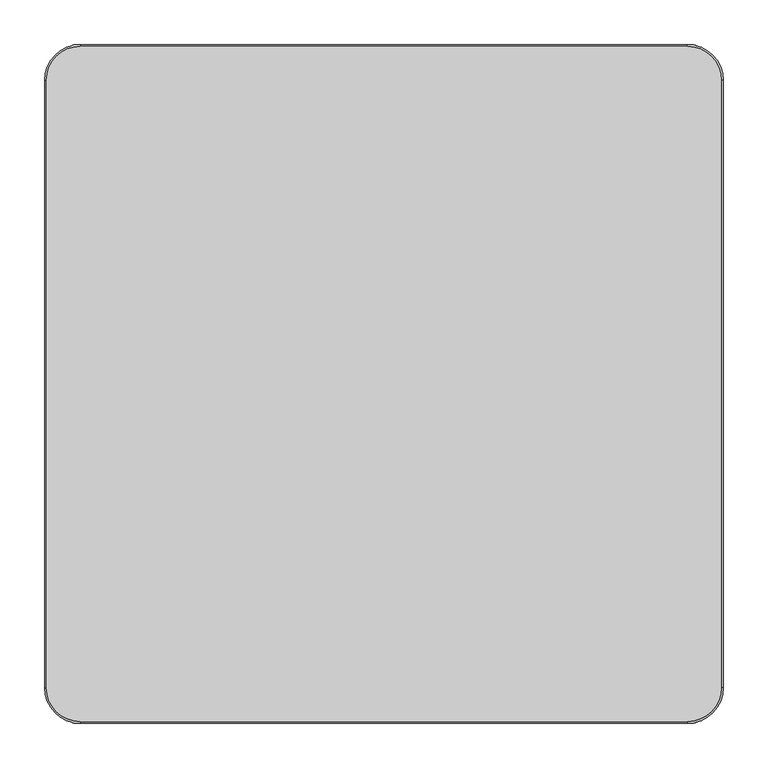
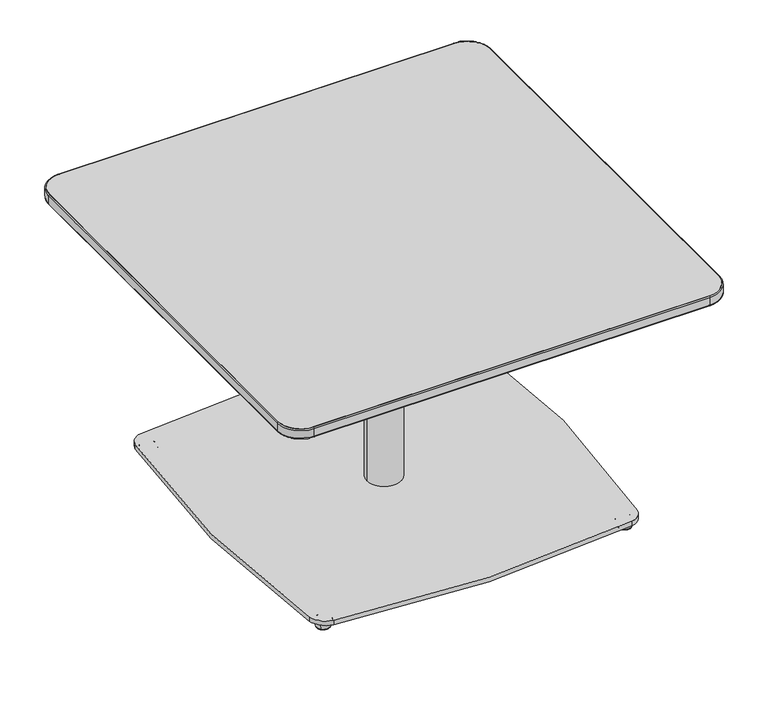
"""IFC4 building model written with IfcOpenShell, lengths in millimetres: furniture geometry, Coalesse_AM_Table_Occasional_Montara650Table_Square : 30D x 30W."""

from ifc_helpers import new_model, si_unit, point, frame, frame_2d, origin, place, context, project, spatial, polyline, circle_curve, ellipse_curve, trimmed, segment, composite_curve, outline, extrude, source, transform, mapped, element, save
from ifc_brep_helpers import plane_surface, cylinder_surface, revolved_surface, spline_surface, advanced_brep


def furniture_5980c282(model_context):
    return source(origin(), model_context, "Body", "SolidModel", [
        advanced_brep(
        [(252.2843813, 244.9990703, 0.0), (266.9696661, 259.6843552, 0.0), (259.6270237, 252.3417127, 0.0), (251.7378791, 244.4525682, 0.5718943), (267.5161683, 260.2308573, 0.5718943), (249.43878, 242.1534691, 11.2068005), (269.8152674, 262.5299564, 11.2068005), (249.8538008, 242.5684899, 11.9999882), (269.4002466, 262.1149356, 11.9999882), (259.6270237, 252.3417127, 11.9999882)],
        [
            (0, 1, circle_curve(frame((259.6270237, 252.3417127, 0.0), z_axis=(0.0, 0.0, -1.0), x_axis=(0.7071067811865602, 0.7071067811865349, 0.0)), 10.3840645)),
            (1, 2),
            (2, 0),
            (1, 0, circle_curve(frame((259.6270237, 252.3417127, 0.0), z_axis=(0.0, 0.0, -1.0), x_axis=(0.7071067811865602, 0.7071067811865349, 0.0)), 10.3840645)),
            (3, 4, circle_curve(frame((259.6270237, 252.3417127, 0.5718943), z_axis=(0.0, 0.0, -1.0), x_axis=(0.7071067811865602, 0.7071067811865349, 0.0)), 11.1569353)),
            (4, 1, circle_curve(frame((266.9696661, 259.6843552, 0.8081846), z_axis=(-0.7071067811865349, 0.7071067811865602, 0.0), x_axis=(0.7071067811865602, 0.7071067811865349, 0.0)), 0.8081846)),
            (0, 3, circle_curve(frame((252.2843813, 244.9990703, 0.8081846), z_axis=(-0.7071067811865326, 0.7071067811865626, 0.0), x_axis=(-0.7071067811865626, -0.7071067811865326, 0.0)), 0.8081846)),
            (4, 3, circle_curve(frame((259.6270237, 252.3417127, 0.5718943), z_axis=(0.0, 0.0, -1.0), x_axis=(0.7071067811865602, 0.7071067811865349, 0.0)), 11.1569353)),
            (5, 6, circle_curve(frame((259.6270237, 252.3417127, 11.2068005), z_axis=(0.0, 0.0, -1.0), x_axis=(0.7071067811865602, 0.7071067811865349, 0.0)), 14.4083524)),
            (6, 4),
            (3, 5),
            (6, 5, circle_curve(frame((259.6270237, 252.3417127, 11.2068005), z_axis=(0.0, 0.0, -1.0), x_axis=(0.7071067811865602, 0.7071067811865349, 0.0)), 14.4083524)),
            (7, 8, circle_curve(frame((259.6270237, 252.3417127, 11.9999882), z_axis=(0.0, 0.0, -1.0), x_axis=(0.7071067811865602, 0.7071067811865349, 0.0)), 13.8214243)),
            (8, 6, circle_curve(frame((269.4002466, 262.1149356, 11.3862424), z_axis=(-0.7071067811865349, 0.7071067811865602, 0.0), x_axis=(0.7071067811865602, 0.7071067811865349, 0.0)), 0.6137458)),
            (5, 7, circle_curve(frame((249.8538008, 242.5684899, 11.3862424), z_axis=(-0.7071067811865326, 0.7071067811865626, 0.0), x_axis=(-0.7071067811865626, -0.7071067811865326, 0.0)), 0.6137458)),
            (8, 7, circle_curve(frame((259.6270237, 252.3417127, 11.9999882), z_axis=(0.0, 0.0, -1.0), x_axis=(0.7071067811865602, 0.7071067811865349, 0.0)), 13.8214243)),
            (9, 8),
            (7, 9),
        ],
        [
            plane_surface(frame((259.6270237, 252.3417127, 0.0), z_axis=(0.0, 0.0, -1.0000000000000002), x_axis=(0.7071067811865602, 0.7071067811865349, 0.0))),
            revolved_surface(trimmed(ellipse_curve(frame((266.9696661, 259.6843552, 0.8081846), z_axis=(0.7071067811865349, -0.7071067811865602, 0.0), x_axis=(0.7071067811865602, 0.7071067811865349, 0.0)), 0.8081846, 0.8081846), [point((266.9696661, 259.6843552, 0.0))], [point((267.5161683, 260.2308573, 0.5718943))], True, "CARTESIAN"), (259.6270237, 252.3417127, 12.2086845), (0.0, 0.0, 1.0)),
            revolved_surface(polyline([(267.5161683, 260.2308573, 0.5718943), (269.8152674, 262.5299564, 11.2068005)]), (259.6270237, 252.3417127, 12.2086845), (0.0, 0.0, 1.0)),
            revolved_surface(trimmed(ellipse_curve(frame((269.4002466, 262.1149356, 11.3862424), z_axis=(0.7071067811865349, -0.7071067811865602, 0.0), x_axis=(0.7071067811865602, 0.7071067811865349, 0.0)), 0.6137458, 0.6137458), [point((269.8152674, 262.5299564, 11.2068005))], [point((269.4002466, 262.1149356, 11.9999882))], True, "CARTESIAN"), (259.6270237, 252.3417127, 12.2086845), (0.0, 0.0, 1.0)),
            plane_surface(frame((259.6270237, 252.3417127, 11.9999882), z_axis=(0.0, 0.0, 1.0000000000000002), x_axis=(0.7071067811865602, 0.7071067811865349, 0.0))),
        ],
        [
            (0, [[1, 2, 3]]),
            (0, [[4, -3, -2]]),
            (1, [[5, 6, -1, 7]]),
            (1, [[8, -7, -4, -6]]),
            (2, [[9, 10, -5, 11]]),
            (2, [[12, -11, -8, -10]]),
            (3, [[13, 14, -9, 15]]),
            (3, [[16, -15, -12, -14]]),
            (4, [[17, -13, 18]]),
            (4, [[-18, -16, -17]]),
        ],
    ),
        advanced_brep(
        [(259.6270237, -268.2167127, 0.0), (266.9696661, -275.5593552, 0.0), (252.2843813, -260.8740703, 0.0), (267.5161683, -276.1058573, 0.5718943), (251.7378791, -260.3275682, 0.5718943), (269.8152674, -278.4049564, 11.2068005), (249.43878, -258.0284691, 11.2068005), (269.4002466, -277.9899356, 11.9999882), (249.8538008, -258.4434899, 11.9999882), (259.6270237, -268.2167127, 11.9999882)],
        [
            (0, 1),
            (1, 2, circle_curve(frame((259.6270237, -268.2167127, 0.0), z_axis=(0.0, 0.0, -1.0), x_axis=(0.7071067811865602, -0.7071067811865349, 0.0)), 10.3840645)),
            (2, 0),
            (2, 1, circle_curve(frame((259.6270237, -268.2167127, 0.0), z_axis=(0.0, 0.0, -1.0), x_axis=(0.7071067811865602, -0.7071067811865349, 0.0)), 10.3840645)),
            (1, 3, circle_curve(frame((266.9696661, -275.5593552, 0.8081846), z_axis=(-0.7071067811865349, -0.7071067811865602, 0.0), x_axis=(0.7071067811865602, -0.7071067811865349, 0.0)), 0.8081846)),
            (3, 4, circle_curve(frame((259.6270237, -268.2167127, 0.5718943), z_axis=(0.0, 0.0, -1.0), x_axis=(0.7071067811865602, -0.7071067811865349, 0.0)), 11.1569353)),
            (4, 2, circle_curve(frame((252.2843813, -260.8740703, 0.8081846), z_axis=(-0.7071067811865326, -0.7071067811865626, 0.0), x_axis=(-0.7071067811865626, 0.7071067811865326, 0.0)), 0.8081846)),
            (4, 3, circle_curve(frame((259.6270237, -268.2167127, 0.5718943), z_axis=(0.0, 0.0, -1.0), x_axis=(0.7071067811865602, -0.7071067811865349, 0.0)), 11.1569353)),
            (3, 5),
            (5, 6, circle_curve(frame((259.6270237, -268.2167127, 11.2068005), z_axis=(0.0, 0.0, -1.0), x_axis=(0.7071067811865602, -0.7071067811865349, 0.0)), 14.4083524)),
            (6, 4),
            (6, 5, circle_curve(frame((259.6270237, -268.2167127, 11.2068005), z_axis=(0.0, 0.0, -1.0), x_axis=(0.7071067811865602, -0.7071067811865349, 0.0)), 14.4083524)),
            (5, 7, circle_curve(frame((269.4002466, -277.9899356, 11.3862424), z_axis=(-0.7071067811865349, -0.7071067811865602, 0.0), x_axis=(0.7071067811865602, -0.7071067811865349, 0.0)), 0.6137458)),
            (7, 8, circle_curve(frame((259.6270237, -268.2167127, 11.9999882), z_axis=(0.0, 0.0, -1.0), x_axis=(0.7071067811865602, -0.7071067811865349, 0.0)), 13.8214243)),
            (8, 6, circle_curve(frame((249.8538008, -258.4434899, 11.3862424), z_axis=(-0.7071067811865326, -0.7071067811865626, 0.0), x_axis=(-0.7071067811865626, 0.7071067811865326, 0.0)), 0.6137458)),
            (8, 7, circle_curve(frame((259.6270237, -268.2167127, 11.9999882), z_axis=(0.0, 0.0, -1.0), x_axis=(0.7071067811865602, -0.7071067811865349, 0.0)), 13.8214243)),
            (7, 9),
            (9, 8),
        ],
        [
            plane_surface(frame((259.6270237, -268.2167127, 0.0), z_axis=(0.0, 0.0, -1.0000000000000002), x_axis=(0.7071067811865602, -0.7071067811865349, 0.0))),
            revolved_surface(trimmed(ellipse_curve(frame((266.9696661, -275.5593552, 0.8081846), z_axis=(0.7071067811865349, 0.7071067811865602, 0.0), x_axis=(0.7071067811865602, -0.7071067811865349, 0.0)), 0.8081846, 0.8081846), [point((267.5161683, -276.1058573, 0.5718943))], [point((266.9696661, -275.5593552, 0.0))], True, "CARTESIAN"), (259.6270237, -268.2167127, 12.2086845), (0.0, 0.0, -1.0)),
            revolved_surface(polyline([(269.8152674, -278.4049564, 11.2068005), (267.5161683, -276.1058573, 0.5718943)]), (259.6270237, -268.2167127, 12.2086845), (0.0, 0.0, -1.0)),
            revolved_surface(trimmed(ellipse_curve(frame((269.4002466, -277.9899356, 11.3862424), z_axis=(0.7071067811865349, 0.7071067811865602, 0.0), x_axis=(0.7071067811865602, -0.7071067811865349, 0.0)), 0.6137458, 0.6137458), [point((269.4002466, -277.9899356, 11.9999882))], [point((269.8152674, -278.4049564, 11.2068005))], True, "CARTESIAN"), (259.6270237, -268.2167127, 12.2086845), (0.0, 0.0, -1.0)),
            plane_surface(frame((259.6270237, -268.2167127, 11.9999882), z_axis=(0.0, 0.0, 1.0000000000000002), x_axis=(0.7071067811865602, -0.7071067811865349, 0.0))),
        ],
        [
            (0, [[1, 2, 3]]),
            (0, [[-3, 4, -1]]),
            (1, [[-2, 5, 6, 7]]),
            (1, [[-4, -7, 8, -5]]),
            (2, [[-6, 9, 10, 11]]),
            (2, [[-8, -11, 12, -9]]),
            (3, [[-10, 13, 14, 15]]),
            (3, [[-12, -15, 16, -13]]),
            (4, [[-14, 17, 18]]),
            (4, [[-16, -18, -17]]),
        ],
    ),
        extrude(outline(composite_curve([segment(trimmed(circle_curve(frame_2d((252.4620101, 244.7741595)), 31.75), [point((257.2212429, 276.1654354))], [point((283.8374336, 249.6368029))], False, "CARTESIAN"), True, "CONTINUOUS"), segment(trimmed(circle_curve(frame_2d((-1338.8141764, -1.8458925)), 1642.0236885), [point((283.8374336, 249.6368029))], [point((281.5966066, -267.3843791))], False, "CARTESIAN"), True, "CONTINUOUS"), segment(trimmed(circle_curve(frame_2d((256.5309305, -263.2768394)), 25.4), [point((281.5966066, -267.3843791))], [point((260.3854879, -288.3826631))], False, "CARTESIAN"), True, "CONTINUOUS"), segment(trimmed(circle_curve(frame_2d((1.8210899, 1395.720493)), 1703.8365498), [point((260.3854879, -288.3826631))], [point((-253.486505, -288.8794656))], False, "CARTESIAN"), True, "CONTINUOUS"), segment(trimmed(circle_curve(frame_2d((-248.7289969, -257.4879282)), 31.75), [point((-253.486505, -288.8794656))], [point((-280.1193859, -262.2530073))], False, "CARTESIAN"), True, "CONTINUOUS"), segment(trimmed(circle_curve(frame_2d((1447.4963883, 5.89e-05)), 1747.4074894), [point((-280.1193859, -262.2530073))], [point((-281.3896101, 253.7442979))], False, "CARTESIAN"), True, "CONTINUOUS"), segment(trimmed(circle_curve(frame_2d((-256.2588351, 250.0559175)), 25.4), [point((-281.3896101, 253.7442979))], [point((-260.1643924, 275.1538581))], False, "CARTESIAN"), True, "CONTINUOUS"), segment(trimmed(circle_curve(frame_2d((1.8210899, -1408.420493)), 1703.8365498), [point((-260.1643924, 275.1538581))], [point((257.2212429, 276.1654354))], False, "CARTESIAN"), True, "CONTINUOUS")], self_intersect=False)), frame((0.0, 0.0, 11.9999882), z_axis=(0.0, 0.0, 1.0), x_axis=(1.0, 0.0, 0.0)), (0.0, 0.0, 1.0), 8.0000083),
        advanced_brep(
        [(-259.6270237, 252.3417127, 0.0), (-266.9696661, 259.6843552, 0.0), (-252.2843813, 244.9990703, 0.0), (-267.5161683, 260.2308573, 0.5718943), (-251.7378791, 244.4525682, 0.5718943), (-269.8152674, 262.5299564, 11.2068005), (-249.43878, 242.1534691, 11.2068005), (-269.4002466, 262.1149356, 11.9999882), (-249.8538008, 242.5684899, 11.9999882), (-259.6270237, 252.3417127, 11.9999882)],
        [
            (0, 1),
            (1, 2, circle_curve(frame((-259.6270237, 252.3417127, 0.0), z_axis=(0.0, 0.0, -1.0), x_axis=(-0.7071067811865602, 0.7071067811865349, 0.0)), 10.3840645)),
            (2, 0),
            (2, 1, circle_curve(frame((-259.6270237, 252.3417127, 0.0), z_axis=(0.0, 0.0, -1.0), x_axis=(-0.7071067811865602, 0.7071067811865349, 0.0)), 10.3840645)),
            (1, 3, circle_curve(frame((-266.9696661, 259.6843552, 0.8081846), z_axis=(0.7071067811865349, 0.7071067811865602, 0.0), x_axis=(-0.7071067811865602, 0.7071067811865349, 0.0)), 0.8081846)),
            (3, 4, circle_curve(frame((-259.6270237, 252.3417127, 0.5718943), z_axis=(0.0, 0.0, -1.0), x_axis=(-0.7071067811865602, 0.7071067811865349, 0.0)), 11.1569353)),
            (4, 2, circle_curve(frame((-252.2843813, 244.9990703, 0.8081846), z_axis=(0.7071067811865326, 0.7071067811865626, 0.0), x_axis=(0.7071067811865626, -0.7071067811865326, 0.0)), 0.8081846)),
            (4, 3, circle_curve(frame((-259.6270237, 252.3417127, 0.5718943), z_axis=(0.0, 0.0, -1.0), x_axis=(-0.7071067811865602, 0.7071067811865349, 0.0)), 11.1569353)),
            (3, 5),
            (5, 6, circle_curve(frame((-259.6270237, 252.3417127, 11.2068005), z_axis=(0.0, 0.0, -1.0), x_axis=(-0.7071067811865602, 0.7071067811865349, 0.0)), 14.4083524)),
            (6, 4),
            (6, 5, circle_curve(frame((-259.6270237, 252.3417127, 11.2068005), z_axis=(0.0, 0.0, -1.0), x_axis=(-0.7071067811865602, 0.7071067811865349, 0.0)), 14.4083524)),
            (5, 7, circle_curve(frame((-269.4002466, 262.1149356, 11.3862424), z_axis=(0.7071067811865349, 0.7071067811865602, 0.0), x_axis=(-0.7071067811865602, 0.7071067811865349, 0.0)), 0.6137458)),
            (7, 8, circle_curve(frame((-259.6270237, 252.3417127, 11.9999882), z_axis=(0.0, 0.0, -1.0), x_axis=(-0.7071067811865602, 0.7071067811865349, 0.0)), 13.8214243)),
            (8, 6, circle_curve(frame((-249.8538008, 242.5684899, 11.3862424), z_axis=(0.7071067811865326, 0.7071067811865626, 0.0), x_axis=(0.7071067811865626, -0.7071067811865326, 0.0)), 0.6137458)),
            (8, 7, circle_curve(frame((-259.6270237, 252.3417127, 11.9999882), z_axis=(0.0, 0.0, -1.0), x_axis=(-0.7071067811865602, 0.7071067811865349, 0.0)), 13.8214243)),
            (7, 9),
            (9, 8),
        ],
        [
            plane_surface(frame((-259.6270237, 252.3417127, 0.0), z_axis=(0.0, 0.0, -1.0000000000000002), x_axis=(-0.7071067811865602, 0.7071067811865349, 0.0))),
            revolved_surface(trimmed(ellipse_curve(frame((-266.9696661, 259.6843552, 0.8081846), z_axis=(-0.7071067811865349, -0.7071067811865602, 0.0), x_axis=(-0.7071067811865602, 0.7071067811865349, 0.0)), 0.8081846, 0.8081846), [point((-267.5161683, 260.2308573, 0.5718943))], [point((-266.9696661, 259.6843552, 0.0))], True, "CARTESIAN"), (-259.6270237, 252.3417127, 12.2086845), (0.0, 0.0, -1.0)),
            revolved_surface(polyline([(-269.8152674, 262.5299564, 11.2068005), (-267.5161683, 260.2308573, 0.5718943)]), (-259.6270237, 252.3417127, 12.2086845), (0.0, 0.0, -1.0)),
            revolved_surface(trimmed(ellipse_curve(frame((-269.4002466, 262.1149356, 11.3862424), z_axis=(-0.7071067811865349, -0.7071067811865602, 0.0), x_axis=(-0.7071067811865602, 0.7071067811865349, 0.0)), 0.6137458, 0.6137458), [point((-269.4002466, 262.1149356, 11.9999882))], [point((-269.8152674, 262.5299564, 11.2068005))], True, "CARTESIAN"), (-259.6270237, 252.3417127, 12.2086845), (0.0, 0.0, -1.0)),
            plane_surface(frame((-259.6270237, 252.3417127, 11.9999882), z_axis=(0.0, 0.0, 1.0000000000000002), x_axis=(-0.7071067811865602, 0.7071067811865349, 0.0))),
        ],
        [
            (0, [[1, 2, 3]]),
            (0, [[-3, 4, -1]]),
            (1, [[-2, 5, 6, 7]]),
            (1, [[-4, -7, 8, -5]]),
            (2, [[-6, 9, 10, 11]]),
            (2, [[-8, -11, 12, -9]]),
            (3, [[-10, 13, 14, 15]]),
            (3, [[-12, -15, 16, -13]]),
            (4, [[-14, 17, 18]]),
            (4, [[-16, -18, -17]]),
        ],
    ),
        advanced_brep(
        [(-252.2843813, -260.8740703, 0.0), (-266.9696661, -275.5593552, 0.0), (-259.6270237, -268.2167127, 0.0), (-251.7378791, -260.3275682, 0.5718943), (-267.5161683, -276.1058573, 0.5718943), (-249.43878, -258.0284691, 11.2068005), (-269.8152674, -278.4049564, 11.2068005), (-249.8538008, -258.4434899, 11.9999882), (-269.4002466, -277.9899356, 11.9999882), (-259.6270237, -268.2167127, 11.9999882)],
        [
            (0, 1, circle_curve(frame((-259.6270237, -268.2167127, 0.0), z_axis=(0.0, 0.0, -1.0), x_axis=(-0.7071067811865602, -0.7071067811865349, 0.0)), 10.3840645)),
            (1, 2),
            (2, 0),
            (1, 0, circle_curve(frame((-259.6270237, -268.2167127, 0.0), z_axis=(0.0, 0.0, -1.0), x_axis=(-0.7071067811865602, -0.7071067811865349, 0.0)), 10.3840645)),
            (3, 4, circle_curve(frame((-259.6270237, -268.2167127, 0.5718943), z_axis=(0.0, 0.0, -1.0), x_axis=(-0.7071067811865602, -0.7071067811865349, 0.0)), 11.1569353)),
            (4, 1, circle_curve(frame((-266.9696661, -275.5593552, 0.8081846), z_axis=(0.7071067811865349, -0.7071067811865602, 0.0), x_axis=(-0.7071067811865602, -0.7071067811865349, 0.0)), 0.8081846)),
            (0, 3, circle_curve(frame((-252.2843813, -260.8740703, 0.8081846), z_axis=(0.7071067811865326, -0.7071067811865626, 0.0), x_axis=(0.7071067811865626, 0.7071067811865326, 0.0)), 0.8081846)),
            (4, 3, circle_curve(frame((-259.6270237, -268.2167127, 0.5718943), z_axis=(0.0, 0.0, -1.0), x_axis=(-0.7071067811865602, -0.7071067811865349, 0.0)), 11.1569353)),
            (5, 6, circle_curve(frame((-259.6270237, -268.2167127, 11.2068005), z_axis=(0.0, 0.0, -1.0), x_axis=(-0.7071067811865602, -0.7071067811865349, 0.0)), 14.4083524)),
            (6, 4),
            (3, 5),
            (6, 5, circle_curve(frame((-259.6270237, -268.2167127, 11.2068005), z_axis=(0.0, 0.0, -1.0), x_axis=(-0.7071067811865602, -0.7071067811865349, 0.0)), 14.4083524)),
            (7, 8, circle_curve(frame((-259.6270237, -268.2167127, 11.9999882), z_axis=(0.0, 0.0, -1.0), x_axis=(-0.7071067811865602, -0.7071067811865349, 0.0)), 13.8214243)),
            (8, 6, circle_curve(frame((-269.4002466, -277.9899356, 11.3862424), z_axis=(0.7071067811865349, -0.7071067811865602, 0.0), x_axis=(-0.7071067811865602, -0.7071067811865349, 0.0)), 0.6137458)),
            (5, 7, circle_curve(frame((-249.8538008, -258.4434899, 11.3862424), z_axis=(0.7071067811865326, -0.7071067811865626, 0.0), x_axis=(0.7071067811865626, 0.7071067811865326, 0.0)), 0.6137458)),
            (8, 7, circle_curve(frame((-259.6270237, -268.2167127, 11.9999882), z_axis=(0.0, 0.0, -1.0), x_axis=(-0.7071067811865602, -0.7071067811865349, 0.0)), 13.8214243)),
            (9, 8),
            (7, 9),
        ],
        [
            plane_surface(frame((-259.6270237, -268.2167127, 0.0), z_axis=(0.0, 0.0, -1.0000000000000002), x_axis=(-0.7071067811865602, -0.7071067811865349, 0.0))),
            revolved_surface(trimmed(ellipse_curve(frame((-266.9696661, -275.5593552, 0.8081846), z_axis=(-0.7071067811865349, 0.7071067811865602, 0.0), x_axis=(-0.7071067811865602, -0.7071067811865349, 0.0)), 0.8081846, 0.8081846), [point((-266.9696661, -275.5593552, 0.0))], [point((-267.5161683, -276.1058573, 0.5718943))], True, "CARTESIAN"), (-259.6270237, -268.2167127, 12.2086845), (0.0, 0.0, 1.0)),
            revolved_surface(polyline([(-267.5161683, -276.1058573, 0.5718943), (-269.8152674, -278.4049564, 11.2068005)]), (-259.6270237, -268.2167127, 12.2086845), (0.0, 0.0, 1.0)),
            revolved_surface(trimmed(ellipse_curve(frame((-269.4002466, -277.9899356, 11.3862424), z_axis=(-0.7071067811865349, 0.7071067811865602, 0.0), x_axis=(-0.7071067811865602, -0.7071067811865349, 0.0)), 0.6137458, 0.6137458), [point((-269.8152674, -278.4049564, 11.2068005))], [point((-269.4002466, -277.9899356, 11.9999882))], True, "CARTESIAN"), (-259.6270237, -268.2167127, 12.2086845), (0.0, 0.0, 1.0)),
            plane_surface(frame((-259.6270237, -268.2167127, 11.9999882), z_axis=(0.0, 0.0, 1.0000000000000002), x_axis=(-0.7071067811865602, -0.7071067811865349, 0.0))),
        ],
        [
            (0, [[1, 2, 3]]),
            (0, [[4, -3, -2]]),
            (1, [[5, 6, -1, 7]]),
            (1, [[8, -7, -4, -6]]),
            (2, [[9, 10, -5, 11]]),
            (2, [[12, -11, -8, -10]]),
            (3, [[13, 14, -9, 15]]),
            (3, [[16, -15, -12, -14]]),
            (4, [[17, -13, 18]]),
            (4, [[-18, -16, -17]]),
        ],
    ),
        advanced_brep(
        [(-259.4526224, 252.1653521, 0.0), (-266.7952648, 259.5079945, 0.0), (-252.1099799, 244.8227097, 0.0), (-267.3417669, 260.0544967, 0.5718943), (-251.5634778, 244.2762075, 0.5718943), (-269.640866, 262.3535958, 11.2068005), (-249.2643787, 241.9771084, 11.2068005), (-269.2258452, 261.938575, 11.9999882), (-249.6793995, 242.3921292, 11.9999882), (-259.4526224, 252.1653521, 11.9999882)],
        [
            (0, 1),
            (1, 2, circle_curve(frame((-259.4526224, 252.1653521, 0.0), z_axis=(0.0, 0.0, -1.0), x_axis=(-0.7071067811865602, 0.7071067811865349, 0.0)), 10.3840645)),
            (2, 0),
            (2, 1, circle_curve(frame((-259.4526224, 252.1653521, 0.0), z_axis=(0.0, 0.0, -1.0), x_axis=(-0.7071067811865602, 0.7071067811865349, 0.0)), 10.3840645)),
            (1, 3, circle_curve(frame((-266.7952648, 259.5079945, 0.8081846), z_axis=(0.7071067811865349, 0.7071067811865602, 0.0), x_axis=(-0.7071067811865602, 0.7071067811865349, 0.0)), 0.8081846)),
            (3, 4, circle_curve(frame((-259.4526224, 252.1653521, 0.5718943), z_axis=(0.0, 0.0, -1.0), x_axis=(-0.7071067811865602, 0.7071067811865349, 0.0)), 11.1569353)),
            (4, 2, circle_curve(frame((-252.1099799, 244.8227097, 0.8081846), z_axis=(0.7071067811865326, 0.7071067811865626, 0.0), x_axis=(0.7071067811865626, -0.7071067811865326, 0.0)), 0.8081846)),
            (4, 3, circle_curve(frame((-259.4526224, 252.1653521, 0.5718943), z_axis=(0.0, 0.0, -1.0), x_axis=(-0.7071067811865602, 0.7071067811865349, 0.0)), 11.1569353)),
            (3, 5),
            (5, 6, circle_curve(frame((-259.4526224, 252.1653521, 11.2068005), z_axis=(0.0, 0.0, -1.0), x_axis=(-0.7071067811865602, 0.7071067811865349, 0.0)), 14.4083524)),
            (6, 4),
            (6, 5, circle_curve(frame((-259.4526224, 252.1653521, 11.2068005), z_axis=(0.0, 0.0, -1.0), x_axis=(-0.7071067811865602, 0.7071067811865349, 0.0)), 14.4083524)),
            (5, 7, circle_curve(frame((-269.2258452, 261.938575, 11.3862424), z_axis=(0.7071067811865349, 0.7071067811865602, 0.0), x_axis=(-0.7071067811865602, 0.7071067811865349, 0.0)), 0.6137458)),
            (7, 8, circle_curve(frame((-259.4526224, 252.1653521, 11.9999882), z_axis=(0.0, 0.0, -1.0), x_axis=(-0.7071067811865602, 0.7071067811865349, 0.0)), 13.8214243)),
            (8, 6, circle_curve(frame((-249.6793995, 242.3921292, 11.3862424), z_axis=(0.7071067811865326, 0.7071067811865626, 0.0), x_axis=(0.7071067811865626, -0.7071067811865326, 0.0)), 0.6137458)),
            (8, 7, circle_curve(frame((-259.4526224, 252.1653521, 11.9999882), z_axis=(0.0, 0.0, -1.0), x_axis=(-0.7071067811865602, 0.7071067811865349, 0.0)), 13.8214243)),
            (7, 9),
            (9, 8),
        ],
        [
            plane_surface(frame((-259.4526224, 252.1653521, 0.0), z_axis=(0.0, 0.0, -1.0000000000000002), x_axis=(-0.7071067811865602, 0.7071067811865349, 0.0))),
            revolved_surface(trimmed(ellipse_curve(frame((-266.7952648, 259.5079945, 0.8081846), z_axis=(-0.7071067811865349, -0.7071067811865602, 0.0), x_axis=(-0.7071067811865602, 0.7071067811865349, 0.0)), 0.8081846, 0.8081846), [point((-267.3417669, 260.0544967, 0.5718943))], [point((-266.7952648, 259.5079945, 0.0))], True, "CARTESIAN"), (-259.4526224, 252.1653521, 12.2086845), (0.0, 0.0, -1.0)),
            revolved_surface(polyline([(-269.640866, 262.3535958, 11.2068005), (-267.3417669, 260.0544967, 0.5718943)]), (-259.4526224, 252.1653521, 12.2086845), (0.0, 0.0, -1.0)),
            revolved_surface(trimmed(ellipse_curve(frame((-269.2258452, 261.938575, 11.3862424), z_axis=(-0.7071067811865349, -0.7071067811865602, 0.0), x_axis=(-0.7071067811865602, 0.7071067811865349, 0.0)), 0.6137458, 0.6137458), [point((-269.2258452, 261.938575, 11.9999882))], [point((-269.640866, 262.3535958, 11.2068005))], True, "CARTESIAN"), (-259.4526224, 252.1653521, 12.2086845), (0.0, 0.0, -1.0)),
            plane_surface(frame((-259.4526224, 252.1653521, 11.9999882), z_axis=(0.0, 0.0, 1.0000000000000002), x_axis=(-0.7071067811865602, 0.7071067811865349, 0.0))),
        ],
        [
            (0, [[1, 2, 3]]),
            (0, [[-3, 4, -1]]),
            (1, [[-2, 5, 6, 7]]),
            (1, [[-4, -7, 8, -5]]),
            (2, [[-6, 9, 10, 11]]),
            (2, [[-8, -11, 12, -9]]),
            (3, [[-10, 13, 14, 15]]),
            (3, [[-12, -15, 16, -13]]),
            (4, [[-14, 17, 18]]),
            (4, [[-16, -18, -17]]),
        ],
    ),
        advanced_brep(
        [(316.0626362, 316.0635082, 427.230027), (316.0626362, -316.0635082, 427.230027), (-316.0626362, -316.0635082, 427.230027), (-316.0626362, 316.0635082, 427.230027), (340.788625, 378.968, 439.495891), (-340.788625, 378.968, 439.495891), (-378.888625, 340.868, 439.495891), (-378.888625, -340.868, 439.495891), (-340.788625, -378.968, 439.495891), (340.788625, -378.968, 439.495891), (378.888625, -340.868, 439.495891), (378.888625, 340.868, 439.495891)],
        [
            (0, 1),
            (1, 2),
            (2, 3),
            (3, 0),
            (4, 5),
            (5, 6, circle_curve(frame((-340.788625, 340.868, 439.495891), z_axis=(0.0, 0.0, 1.0), x_axis=(1.0, 0.0, 0.0)), 38.1)),
            (6, 7),
            (7, 8, circle_curve(frame((-340.788625, -340.868, 439.495891), z_axis=(0.0, 0.0, 1.0), x_axis=(1.0, 0.0, 0.0)), 38.1)),
            (8, 9),
            (9, 10, circle_curve(frame((340.788625, -340.868, 439.495891), z_axis=(0.0, 0.0, 1.0), x_axis=(1.0, 0.0, 0.0)), 38.1)),
            (10, 11),
            (11, 4, circle_curve(frame((340.788625, 340.868, 439.495891), z_axis=(0.0, 0.0, 1.0), x_axis=(1.0, 0.0, 0.0)), 38.1)),
            (11, 0),
            (0, 4),
            (10, 1),
            (9, 1),
            (8, 2),
            (7, 2),
            (6, 3),
            (5, 3),
        ],
        [
            plane_surface(frame((0.0, 0.0, 427.230027), z_axis=(0.0, 0.0, -1.0), x_axis=(-1.0, 0.0, 0.0))),
            plane_surface(frame((0.0, 0.0, 439.495891), z_axis=(0.0, 0.0, 1.0), x_axis=(-1.0, 0.0, 0.0))),
            spline_surface(2, 1, [[(340.788625, 378.968, 439.495891), (316.0626362, 316.0635082, 427.230027)], [(378.88862500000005, 378.9680000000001, 439.495891), (316.0626362, 316.0635082, 427.230027)], [(378.888625, 340.868, 439.495891), (316.0626362, 316.0635082, 427.230027)]], [3, 3], [2, 2], [0.0, 1.0], [0.0, 1.0], weights=[[1.0, 1.0], [0.707106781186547, 0.707106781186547], [1.0, 1.0]]),
            plane_surface(frame((378.888625, 0.0, 439.495891), z_axis=(0.19161772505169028, 0.0, -0.9814696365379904), x_axis=(0.0, -1.0, 0.0))),
            spline_surface(2, 1, [[(378.888625, -340.868, 439.495891), (316.0626362, -316.0635082, 427.230027)], [(378.88862499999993, -378.96799999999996, 439.495891), (316.0626362, -316.0635082, 427.230027)], [(340.788625, -378.968, 439.495891), (316.0626362, -316.0635082, 427.230027)]], [3, 3], [2, 2], [0.0, 1.0], [0.0, 1.0], weights=[[1.0, 1.0], [0.7071067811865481, 0.7071067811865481], [1.0, 1.0]]),
            plane_surface(frame((0.0, -378.968, 439.495891), z_axis=(0.0, -0.1913873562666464, -0.9815145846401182), x_axis=(-1.0, 0.0, 0.0))),
            spline_surface(2, 1, [[(-340.788625, -378.968, 439.495891), (-316.0626362, -316.0635082, 427.230027)], [(-378.88862500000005, -378.9680000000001, 439.495891), (-316.0626362, -316.0635082, 427.230027)], [(-378.888625, -340.868, 439.495891), (-316.0626362, -316.0635082, 427.230027)]], [3, 3], [2, 2], [0.0, 1.0], [0.0, 1.0], weights=[[1.0, 1.0], [0.707106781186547, 0.707106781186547], [1.0, 1.0]]),
            plane_surface(frame((-378.888625, 0.0, 439.495891), z_axis=(-0.19161772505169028, 0.0, -0.9814696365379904), x_axis=(0.0, 1.0, 0.0))),
            spline_surface(2, 1, [[(-378.888625, 340.868, 439.495891), (-316.0626362, 316.0635082, 427.230027)], [(-378.88862499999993, 378.96799999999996, 439.495891), (-316.0626362, 316.0635082, 427.230027)], [(-340.788625, 378.968, 439.495891), (-316.0626362, 316.0635082, 427.230027)]], [3, 3], [2, 2], [0.0, 1.0], [0.0, 1.0], weights=[[1.0, 1.0], [0.7071067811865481, 0.7071067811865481], [1.0, 1.0]]),
            plane_surface(frame((0.0, 378.968, 439.495891), z_axis=(0.0, 0.1913873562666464, -0.9815145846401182), x_axis=(1.0, 0.0, 0.0))),
        ],
        [
            (0, [[1, 2, 3, 4]]),
            (1, [[5, 6, 7, 8, 9, 10, 11, 12]]),
            (2, [[-12, 13, 14]]),
            (3, [[-11, 15, -1, -13]]),
            (4, [[-10, 16, -15]]),
            (5, [[-9, 17, -2, -16]]),
            (6, [[-8, 18, -17]]),
            (7, [[-7, 19, -3, -18]]),
            (8, [[-6, 20, -19]]),
            (9, [[-5, -14, -4, -20]]),
        ],
    ),
        extrude(outline(composite_curve([segment(trimmed(circle_curve(frame_2d((340.788625, 340.868)), 38.1), [point((340.788625, 378.968))], [point((378.888625, 340.868))], False, "CARTESIAN"), True, "CONTINUOUS"), segment(polyline([(378.888625, 340.868), (378.888625, -340.868)]), True, "CONTINUOUS"), segment(trimmed(circle_curve(frame_2d((340.788625, -340.868)), 38.1), [point((378.888625, -340.868))], [point((340.788625, -378.968))], False, "CARTESIAN"), True, "CONTINUOUS"), segment(polyline([(340.788625, -378.968), (-340.788625, -378.968)]), True, "CONTINUOUS"), segment(trimmed(circle_curve(frame_2d((-340.788625, -340.868)), 38.1), [point((-340.788625, -378.968))], [point((-378.888625, -340.868))], False, "CARTESIAN"), True, "CONTINUOUS"), segment(polyline([(-378.888625, -340.868), (-378.888625, 340.868)]), True, "CONTINUOUS"), segment(trimmed(circle_curve(frame_2d((-340.788625, 340.868)), 38.1), [point((-378.888625, 340.868))], [point((-340.788625, 378.968))], False, "CARTESIAN"), True, "CONTINUOUS"), segment(polyline([(-340.788625, 378.968), (340.788625, 378.968)]), True, "CONTINUOUS")], self_intersect=False)), frame((0.0, 0.0, 439.495891), z_axis=(0.0, 0.0, 1.0), x_axis=(1.0, 0.0, 0.0)), (0.0, 0.0, 1.0), 17.704109),
        advanced_brep(
        [(-380.9644915, 340.868, 441.4278467), (-340.788625, 381.0438665, 441.4278467), (-340.788625, 378.968, 439.495891), (-378.888625, 340.868, 439.495891), (-380.9644915, 340.868, 455.1999283), (-340.788625, 381.0438665, 455.1999283), (-378.888625, 340.868, 457.2), (-340.788625, 378.968, 457.2), (-378.888625, -340.868, 439.495891), (-380.9644915, -340.868, 441.4278467), (-380.9644915, -340.868, 455.1999283), (-378.888625, -340.868, 457.2), (-340.788625, -381.0438665, 441.4278467), (-340.788625, -378.968, 439.495891), (-340.788625, -381.0438665, 455.1999283), (-340.788625, -378.968, 457.2), (340.788625, -378.968, 439.495891), (340.788625, -381.0438665, 441.4278467), (340.788625, -381.0438665, 455.1999283), (340.788625, -378.968, 457.2), (380.9644915, -340.868, 441.4278467), (378.888625, -340.868, 439.495891), (380.9644915, -340.868, 455.1999283), (378.888625, -340.868, 457.2), (378.888625, 340.868, 439.495891), (380.9644915, 340.868, 441.4278467), (380.9644915, 340.868, 455.1999283), (378.888625, 340.868, 457.2), (340.788625, 381.0438665, 441.4278467), (340.788625, 378.968, 439.495891), (340.788625, 381.0438665, 455.1999283), (340.788625, 378.968, 457.2)],
        [
            (0, 1, circle_curve(frame((-340.788625, 340.868, 441.4278467), z_axis=(0.0, 0.0, -1.0), x_axis=(0.0, 1.0, 0.0)), 40.1758665)),
            (1, 2, circle_curve(frame((-340.788625, 379.1069224, 441.4278467), z_axis=(-1.0, 0.0, 0.0), x_axis=(0.0, -1.0, 0.0)), 1.9369441)),
            (2, 3, circle_curve(frame((-340.788625, 340.868, 439.495891), z_axis=(0.0, 0.0, 1.0), x_axis=(0.0, 1.0, 0.0)), 38.1)),
            (3, 0, circle_curve(frame((-379.0275474, 340.868, 441.4278467), z_axis=(0.0, 1.0, 0.0), x_axis=(1.0, 0.0, 0.0)), 1.9369441)),
            (4, 5, circle_curve(frame((-340.788625, 340.868, 455.1999283), z_axis=(0.0, 0.0, -1.0), x_axis=(0.0, 1.0, 0.0)), 40.1758665)),
            (5, 1),
            (0, 4),
            (6, 7, circle_curve(frame((-340.788625, 340.868, 457.2), z_axis=(0.0, 0.0, -1.0), x_axis=(0.0, 1.0, 0.0)), 38.1)),
            (7, 5, circle_curve(frame((-340.788625, 379.0424111, 455.1999283), z_axis=(-1.0, 0.0, 0.0), x_axis=(0.0, -1.0, 0.0)), 2.0014554)),
            (4, 6, circle_curve(frame((-378.9630361, 340.868, 455.1999283), z_axis=(0.0, 1.0, 0.0), x_axis=(1.0, 0.0, 0.0)), 2.0014554)),
            (2, 7),
            (6, 3),
            (3, 8),
            (8, 9, circle_curve(frame((-379.0275474, -340.868, 441.4278467), z_axis=(0.0, 1.0, 0.0), x_axis=(1.0, 0.0, 0.0)), 1.9369441)),
            (9, 0),
            (9, 10),
            (10, 4),
            (10, 11, circle_curve(frame((-378.9630361, -340.868, 455.1999283), z_axis=(0.0, 1.0, 0.0), x_axis=(1.0, 0.0, 0.0)), 2.0014554)),
            (11, 6),
            (11, 8),
            (12, 9, circle_curve(frame((-340.788625, -340.868, 441.4278467), z_axis=(0.0, 0.0, -1.0), x_axis=(-1.0, 0.0, 0.0)), 40.1758665)),
            (8, 13, circle_curve(frame((-340.788625, -340.868, 439.495891), z_axis=(0.0, 0.0, 1.0), x_axis=(-1.0, 0.0, 0.0)), 38.1)),
            (13, 12, circle_curve(frame((-340.788625, -379.1069224, 441.4278467), z_axis=(-1.0, 0.0, 0.0), x_axis=(0.0, 1.0, 0.0)), 1.9369441)),
            (14, 10, circle_curve(frame((-340.788625, -340.868, 455.1999283), z_axis=(0.0, 0.0, -1.0), x_axis=(-1.0, 0.0, 0.0)), 40.1758665)),
            (12, 14),
            (15, 11, circle_curve(frame((-340.788625, -340.868, 457.2), z_axis=(0.0, 0.0, -1.0), x_axis=(-1.0, 0.0, 0.0)), 38.1)),
            (14, 15, circle_curve(frame((-340.788625, -379.0424111, 455.1999283), z_axis=(-1.0, 0.0, 0.0), x_axis=(0.0, 1.0, 0.0)), 2.0014554)),
            (15, 13),
            (13, 16),
            (16, 17, circle_curve(frame((340.788625, -379.1069224, 441.4278467), z_axis=(-1.0, 0.0, 0.0), x_axis=(0.0, 1.0, 0.0)), 1.9369441)),
            (17, 12),
            (17, 18),
            (18, 14),
            (18, 19, circle_curve(frame((340.788625, -379.0424111, 455.1999283), z_axis=(-1.0, 0.0, 0.0), x_axis=(0.0, 1.0, 0.0)), 2.0014554)),
            (19, 15),
            (19, 16),
            (20, 17, circle_curve(frame((340.788625, -340.868, 441.4278467), z_axis=(0.0, 0.0, -1.0), x_axis=(0.0, -1.0, 0.0)), 40.1758665)),
            (16, 21, circle_curve(frame((340.788625, -340.868, 439.495891), z_axis=(0.0, 0.0, 1.0), x_axis=(0.0, -1.0, 0.0)), 38.1)),
            (21, 20, circle_curve(frame((379.0275474, -340.868, 441.4278467), z_axis=(0.0, -1.0, 0.0), x_axis=(-1.0, 0.0, 0.0)), 1.9369441)),
            (22, 18, circle_curve(frame((340.788625, -340.868, 455.1999283), z_axis=(0.0, 0.0, -1.0), x_axis=(0.0, -1.0, 0.0)), 40.1758665)),
            (20, 22),
            (23, 19, circle_curve(frame((340.788625, -340.868, 457.2), z_axis=(0.0, 0.0, -1.0), x_axis=(0.0, -1.0, 0.0)), 38.1)),
            (22, 23, circle_curve(frame((378.9630361, -340.868, 455.1999283), z_axis=(0.0, -1.0, 0.0), x_axis=(-1.0, 0.0, 0.0)), 2.0014554)),
            (23, 21),
            (21, 24),
            (24, 25, circle_curve(frame((379.0275474, 340.868, 441.4278467), z_axis=(0.0, -1.0, 0.0), x_axis=(-1.0, 0.0, 0.0)), 1.9369441)),
            (25, 20),
            (25, 26),
            (26, 22),
            (26, 27, circle_curve(frame((378.9630361, 340.868, 455.1999283), z_axis=(0.0, -1.0, 0.0), x_axis=(-1.0, 0.0, 0.0)), 2.0014554)),
            (27, 23),
            (27, 24),
            (28, 25, circle_curve(frame((340.788625, 340.868, 441.4278467), z_axis=(0.0, 0.0, -1.0), x_axis=(1.0, 0.0, 0.0)), 40.1758665)),
            (24, 29, circle_curve(frame((340.788625, 340.868, 439.495891), z_axis=(0.0, 0.0, 1.0), x_axis=(1.0, 0.0, 0.0)), 38.1)),
            (29, 28, circle_curve(frame((340.788625, 379.1069224, 441.4278467), z_axis=(1.0, 0.0, 0.0), x_axis=(0.0, -1.0, 0.0)), 1.9369441)),
            (30, 26, circle_curve(frame((340.788625, 340.868, 455.1999283), z_axis=(0.0, 0.0, -1.0), x_axis=(1.0, 0.0, 0.0)), 40.1758665)),
            (28, 30),
            (31, 27, circle_curve(frame((340.788625, 340.868, 457.2), z_axis=(0.0, 0.0, -1.0), x_axis=(1.0, 0.0, 0.0)), 38.1)),
            (30, 31, circle_curve(frame((340.788625, 379.0424111, 455.1999283), z_axis=(1.0, 0.0, 0.0), x_axis=(0.0, -1.0, 0.0)), 2.0014554)),
            (31, 29),
            (29, 2),
            (1, 28),
            (5, 30),
            (7, 31),
        ],
        [
            revolved_surface(trimmed(ellipse_curve(frame((-340.788625, 379.1069224, 441.4278467), z_axis=(1.0, 0.0, 0.0), x_axis=(0.0, -1.0, 0.0)), 1.9369441, 1.9369441), [point((-340.788625, 378.968, 439.495891))], [point((-340.788625, 381.0438665, 441.4278467))], True, "CARTESIAN"), (-340.788625, 340.868, 0.0), (0.0, 0.0, 1.0)),
            cylinder_surface(frame((-340.788625, 340.868, 0.0), z_axis=(0.0, 0.0, 1.0), x_axis=(0.0, 1.0, 0.0)), 40.1758665),
            revolved_surface(trimmed(ellipse_curve(frame((-340.788625, 379.0424111, 455.1999283), z_axis=(1.0, 0.0, 0.0), x_axis=(0.0, -1.0, 0.0)), 2.0014554, 2.0014554), [point((-340.788625, 381.0438665, 455.1999283))], [point((-340.788625, 378.968, 457.2))], True, "CARTESIAN"), (-340.788625, 340.868, 0.0), (0.0, 0.0, 1.0)),
            revolved_surface(polyline([(-340.788625, 378.968, 457.2), (-340.788625, 378.968, 439.495891)]), (-340.788625, 340.868, 0.0), (0.0, 0.0, 1.0)),
            cylinder_surface(frame((-379.0275474, 340.868, 441.4278467), z_axis=(0.0, 1.0, 0.0), x_axis=(1.0, 0.0, 0.0)), 1.9369441),
            plane_surface(frame((-380.9644915, 340.868, 441.4278467), z_axis=(-1.0, 0.0, 0.0), x_axis=(0.0, -1.0, 0.0))),
            cylinder_surface(frame((-378.9630361, 340.868, 455.1999283), z_axis=(0.0, 1.0, 0.0), x_axis=(1.0, 0.0, 0.0)), 2.0014554),
            plane_surface(frame((-378.888625, 340.868, 457.2), z_axis=(1.0, 0.0, 0.0), x_axis=(0.0, -1.0, 0.0))),
            revolved_surface(trimmed(ellipse_curve(frame((-379.0275474, -340.868, 441.4278467), z_axis=(0.0, 1.0, 0.0), x_axis=(1.0, 0.0, 0.0)), 1.9369441, 1.9369441), [point((-378.888625, -340.868, 439.495891))], [point((-380.9644915, -340.868, 441.4278467))], True, "CARTESIAN"), (-340.788625, -340.868, 0.0), (0.0, 0.0, 1.0)),
            cylinder_surface(frame((-340.788625, -340.868, 0.0), z_axis=(0.0, 0.0, 1.0), x_axis=(-1.0, 0.0, 0.0)), 40.1758665),
            revolved_surface(trimmed(ellipse_curve(frame((-378.9630361, -340.868, 455.1999283), z_axis=(0.0, 1.0, 0.0), x_axis=(1.0, 0.0, 0.0)), 2.0014554, 2.0014554), [point((-380.9644915, -340.868, 455.1999283))], [point((-378.888625, -340.868, 457.2))], True, "CARTESIAN"), (-340.788625, -340.868, 0.0), (0.0, 0.0, 1.0)),
            revolved_surface(polyline([(-378.88862500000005, -340.868, 457.2), (-378.88862500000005, -340.868, 439.495891)]), (-340.788625, -340.868, 0.0), (0.0, 0.0, 1.0)),
            cylinder_surface(frame((-340.788625, -379.1069224, 441.4278467), z_axis=(-1.0, 0.0, 0.0), x_axis=(0.0, 1.0, 0.0)), 1.9369441),
            plane_surface(frame((-340.788625, -381.0438665, 441.4278467), z_axis=(0.0, -1.0, 0.0), x_axis=(1.0, 0.0, 0.0))),
            cylinder_surface(frame((-340.788625, -379.0424111, 455.1999283), z_axis=(-1.0, 0.0, 0.0), x_axis=(0.0, 1.0, 0.0)), 2.0014554),
            plane_surface(frame((-340.788625, -378.968, 457.2), z_axis=(0.0, 1.0, 0.0), x_axis=(1.0, 0.0, 0.0))),
            revolved_surface(trimmed(ellipse_curve(frame((340.788625, -379.1069224, 441.4278467), z_axis=(-1.0, 0.0, 0.0), x_axis=(0.0, 1.0, 0.0)), 1.9369441, 1.9369441), [point((340.788625, -378.968, 439.495891))], [point((340.788625, -381.0438665, 441.4278467))], True, "CARTESIAN"), (340.788625, -340.868, 0.0), (0.0, 0.0, 1.0)),
            cylinder_surface(frame((340.788625, -340.868, 0.0), z_axis=(0.0, 0.0, 1.0), x_axis=(0.0, -1.0, 0.0)), 40.1758665),
            revolved_surface(trimmed(ellipse_curve(frame((340.788625, -379.0424111, 455.1999283), z_axis=(-1.0, 0.0, 0.0), x_axis=(0.0, 1.0, 0.0)), 2.0014554, 2.0014554), [point((340.788625, -381.0438665, 455.1999283))], [point((340.788625, -378.968, 457.2))], True, "CARTESIAN"), (340.788625, -340.868, 0.0), (0.0, 0.0, 1.0)),
            revolved_surface(polyline([(340.788625, -378.968, 457.2), (340.788625, -378.968, 439.495891)]), (340.788625, -340.868, 0.0), (0.0, 0.0, 1.0)),
            cylinder_surface(frame((379.0275474, -340.868, 441.4278467), z_axis=(0.0, -1.0, 0.0), x_axis=(-1.0, 0.0, 0.0)), 1.9369441),
            plane_surface(frame((380.9644915, -340.868, 441.4278467), z_axis=(1.0, 0.0, 0.0), x_axis=(0.0, 1.0, 0.0))),
            cylinder_surface(frame((378.9630361, -340.868, 455.1999283), z_axis=(0.0, -1.0, 0.0), x_axis=(-1.0, 0.0, 0.0)), 2.0014554),
            plane_surface(frame((378.888625, -340.868, 457.2), z_axis=(-1.0, 0.0, 0.0), x_axis=(0.0, 1.0, 0.0))),
            revolved_surface(trimmed(ellipse_curve(frame((379.0275474, 340.868, 441.4278467), z_axis=(0.0, -1.0, 0.0), x_axis=(-1.0, 0.0, 0.0)), 1.9369441, 1.9369441), [point((378.888625, 340.868, 439.495891))], [point((380.9644915, 340.868, 441.4278467))], True, "CARTESIAN"), (340.788625, 340.868, 0.0), (0.0, 0.0, 1.0)),
            cylinder_surface(frame((340.788625, 340.868, 0.0), z_axis=(0.0, 0.0, 1.0), x_axis=(1.0, 0.0, 0.0)), 40.1758665),
            revolved_surface(trimmed(ellipse_curve(frame((378.9630361, 340.868, 455.1999283), z_axis=(0.0, -1.0, 0.0), x_axis=(-1.0, 0.0, 0.0)), 2.0014554, 2.0014554), [point((380.9644915, 340.868, 455.1999283))], [point((378.888625, 340.868, 457.2))], True, "CARTESIAN"), (340.788625, 340.868, 0.0), (0.0, 0.0, 1.0)),
            revolved_surface(polyline([(378.88862500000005, 340.868, 457.2), (378.88862500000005, 340.868, 439.495891)]), (340.788625, 340.868, 0.0), (0.0, 0.0, 1.0)),
            cylinder_surface(frame((340.788625, 379.1069224, 441.4278467), z_axis=(1.0, 0.0, 0.0), x_axis=(0.0, -1.0, 0.0)), 1.9369441),
            plane_surface(frame((340.788625, 381.0438665, 441.4278467), z_axis=(0.0, 1.0, 0.0), x_axis=(-1.0, 0.0, 0.0))),
            cylinder_surface(frame((340.788625, 379.0424111, 455.1999283), z_axis=(1.0, 0.0, 0.0), x_axis=(0.0, -1.0, 0.0)), 2.0014554),
            plane_surface(frame((340.788625, 378.968, 457.2), z_axis=(0.0, -1.0, 0.0), x_axis=(-1.0, 0.0, 0.0))),
        ],
        [
            (0, [[1, 2, 3, 4]]),
            (1, [[5, 6, -1, 7]]),
            (2, [[8, 9, -5, 10]]),
            (3, [[-3, 11, -8, 12]]),
            (4, [[-4, 13, 14, 15]]),
            (5, [[-7, -15, 16, 17]]),
            (6, [[-10, -17, 18, 19]]),
            (7, [[-12, -19, 20, -13]]),
            (8, [[21, -14, 22, 23]]),
            (9, [[24, -16, -21, 25]]),
            (10, [[26, -18, -24, 27]]),
            (11, [[-22, -20, -26, 28]]),
            (12, [[-23, 29, 30, 31]]),
            (13, [[-25, -31, 32, 33]]),
            (14, [[-27, -33, 34, 35]]),
            (15, [[-28, -35, 36, -29]]),
            (16, [[37, -30, 38, 39]]),
            (17, [[40, -32, -37, 41]]),
            (18, [[42, -34, -40, 43]]),
            (19, [[-38, -36, -42, 44]]),
            (20, [[-39, 45, 46, 47]]),
            (21, [[-41, -47, 48, 49]]),
            (22, [[-43, -49, 50, 51]]),
            (23, [[-44, -51, 52, -45]]),
            (24, [[53, -46, 54, 55]]),
            (25, [[56, -48, -53, 57]]),
            (26, [[58, -50, -56, 59]]),
            (27, [[-54, -52, -58, 60]]),
            (28, [[-55, 61, -2, 62]]),
            (29, [[-57, -62, -6, 63]]),
            (30, [[-59, -63, -9, 64]]),
            (31, [[-60, -64, -11, -61]]),
        ],
    ),
        advanced_brep(
        [(131.6004101, 0.0, 424.055027), (-131.6004101, 0.0, 424.055027), (-176.1626132, 0.0, 424.055027), (176.1626132, 0.0, 424.055027), (121.0488662, 0.0, 422.9460151), (-121.0488662, 0.0, 422.9460151), (48.7461809, 0.0, 408.2837029), (-48.7461809, 0.0, 408.2837029), (37.412985, 0.0, 408.2837029), (-37.412985, 0.0, 408.2837029), (29.5495828, 0.0, 19.9999965), (-29.5495828, 0.0, 19.9999965), (-29.5495828, 0.0, 420.0852036), (29.5495828, 0.0, 420.0852036), (0.0, 0.0, 19.9999965), (176.1626132, 0.0, 427.230027), (-176.1626132, 0.0, 427.230027), (0.0, 0.0, 427.230027), (33.3511087, 0.0, 409.7383874), (-33.3511087, 0.0, 409.7383874), (31.712334, 0.0, 420.0852036), (-31.712334, 0.0, 420.0852036)],
        [
            (0, 1, circle_curve(frame((0.0, 0.0, 424.055027), z_axis=(0.0, 0.0, 1.0), x_axis=(-1.0, 0.0, 0.0)), 131.6004101)),
            (1, 2),
            (2, 3, circle_curve(frame((0.0, 0.0, 424.055027), z_axis=(0.0, 0.0, -1.0), x_axis=(-1.0, 0.0, 0.0)), 176.1626132)),
            (3, 0),
            (1, 0, circle_curve(frame((0.0, 0.0, 424.055027), z_axis=(0.0, 0.0, 1.0), x_axis=(-1.0, 0.0, 0.0)), 131.6004101)),
            (3, 2, circle_curve(frame((0.0, 0.0, 424.055027), z_axis=(0.0, 0.0, -1.0), x_axis=(-1.0, 0.0, 0.0)), 176.1626132)),
            (4, 5, circle_curve(frame((0.0, 0.0, 422.9460151), z_axis=(0.0, 0.0, 1.0), x_axis=(-1.0, 0.0, 0.0)), 121.0488662)),
            (5, 1),
            (0, 4),
            (5, 4, circle_curve(frame((0.0, 0.0, 422.9460151), z_axis=(0.0, 0.0, 1.0), x_axis=(-1.0, 0.0, 0.0)), 121.0488662)),
            (6, 7, circle_curve(frame((0.0, 0.0, 408.2837029), z_axis=(0.0, 0.0, 1.0), x_axis=(-1.0, 0.0, 0.0)), 48.7461809)),
            (7, 5),
            (4, 6),
            (7, 6, circle_curve(frame((0.0, 0.0, 408.2837029), z_axis=(0.0, 0.0, 1.0), x_axis=(-1.0, 0.0, 0.0)), 48.7461809)),
            (8, 9, circle_curve(frame((0.0, 0.0, 408.2837029), z_axis=(0.0, 0.0, 1.0), x_axis=(-1.0, 0.0, 0.0)), 37.412985)),
            (9, 7),
            (6, 8),
            (9, 8, circle_curve(frame((0.0, 0.0, 408.2837029), z_axis=(0.0, 0.0, 1.0), x_axis=(-1.0, 0.0, 0.0)), 37.412985)),
            (10, 11, circle_curve(frame((0.0, 0.0, 19.9999965), z_axis=(0.0, 0.0, 1.0), x_axis=(-1.0, 0.0, 0.0)), 29.5495828)),
            (11, 12),
            (12, 13, circle_curve(frame((0.0, 0.0, 420.0852036), z_axis=(0.0, 0.0, -1.0), x_axis=(-1.0, 0.0, 0.0)), 29.5495828)),
            (13, 10),
            (11, 10, circle_curve(frame((0.0, 0.0, 19.9999965), z_axis=(0.0, 0.0, 1.0), x_axis=(-1.0, 0.0, 0.0)), 29.5495828)),
            (13, 12, circle_curve(frame((0.0, 0.0, 420.0852036), z_axis=(0.0, 0.0, -1.0), x_axis=(-1.0, 0.0, 0.0)), 29.5495828)),
            (14, 11),
            (10, 14),
            (15, 16, circle_curve(frame((0.0, 0.0, 427.230027), z_axis=(0.0, 0.0, 1.0), x_axis=(-1.0, 0.0, 0.0)), 176.1626132)),
            (16, 17),
            (17, 15),
            (16, 15, circle_curve(frame((0.0, 0.0, 427.230027), z_axis=(0.0, 0.0, 1.0), x_axis=(-1.0, 0.0, 0.0)), 176.1626132)),
            (2, 16),
            (15, 3),
            (18, 19, circle_curve(frame((0.0, 0.0, 409.7383874), z_axis=(0.0, 0.0, 1.0), x_axis=(-1.0, 0.0, 0.0)), 33.3511087)),
            (19, 9),
            (8, 18),
            (19, 18, circle_curve(frame((0.0, 0.0, 409.7383874), z_axis=(0.0, 0.0, 1.0), x_axis=(-1.0, 0.0, 0.0)), 33.3511087)),
            (20, 21, circle_curve(frame((0.0, 0.0, 420.0852036), z_axis=(0.0, 0.0, 1.0), x_axis=(-1.0, 0.0, 0.0)), 31.712334)),
            (21, 19),
            (18, 20),
            (21, 20, circle_curve(frame((0.0, 0.0, 420.0852036), z_axis=(0.0, 0.0, 1.0), x_axis=(-1.0, 0.0, 0.0)), 31.712334)),
            (12, 21),
            (20, 13),
        ],
        [
            plane_surface(frame((0.0, 0.0, 424.055027), z_axis=(0.0, 0.0, -1.0), x_axis=(-1.0, 0.0, 0.0))),
            revolved_surface(polyline([(-131.6004101, 0.0, 424.055027), (-121.0488662, 0.0, 422.9460151)]), (0.0, 0.0, 172.3999965), (0.0, 0.0, -1.0)),
            revolved_surface(polyline([(-121.0488662, 0.0, 422.9460151), (-48.7461809, 0.0, 408.2837029)]), (0.0, 0.0, 172.3999965), (0.0, 0.0, -1.0)),
            plane_surface(frame((0.0, 0.0, 408.2837029), z_axis=(0.0, 0.0, -1.0), x_axis=(-1.0, 0.0, 0.0))),
            cylinder_surface(frame((0.0, 0.0, 172.3999965), z_axis=(0.0, 0.0, -1.0), x_axis=(-1.0, 0.0, 0.0)), 29.5495828),
            plane_surface(frame((0.0, 0.0, 19.9999965), z_axis=(0.0, 0.0, -1.0), x_axis=(-1.0, 0.0, 0.0))),
            plane_surface(frame((0.0, 0.0, 427.230027), z_axis=(0.0, 0.0, 1.0), x_axis=(-1.0, 0.0, 0.0))),
            cylinder_surface(frame((0.0, 0.0, 172.3999965), z_axis=(0.0, 0.0, -1.0), x_axis=(-1.0, 0.0, 0.0)), 176.1626132),
            revolved_surface(polyline([(-37.412985, 0.0, 408.2837029), (-33.3511087, 0.0, 409.7383874)]), (0.0, 0.0, 172.3999965), (0.0, 0.0, -1.0)),
            revolved_surface(polyline([(-33.3511087, 0.0, 409.7383874), (-31.712334, 0.0, 420.0852036)]), (0.0, 0.0, 172.3999965), (0.0, 0.0, -1.0)),
            plane_surface(frame((0.0, 0.0, 420.0852036), z_axis=(0.0, 0.0, -1.0), x_axis=(-1.0, 0.0, 0.0))),
        ],
        [
            (0, [[1, 2, 3, 4]]),
            (0, [[5, -4, 6, -2]]),
            (1, [[7, 8, -1, 9]]),
            (1, [[10, -9, -5, -8]]),
            (2, [[11, 12, -7, 13]]),
            (2, [[14, -13, -10, -12]]),
            (3, [[15, 16, -11, 17]]),
            (3, [[18, -17, -14, -16]]),
            (4, [[19, 20, 21, 22]]),
            (4, [[23, -22, 24, -20]]),
            (5, [[25, -19, 26]]),
            (5, [[-26, -23, -25]]),
            (6, [[27, 28, 29]]),
            (6, [[30, -29, -28]]),
            (7, [[-3, 31, -27, 32]]),
            (7, [[-6, -32, -30, -31]]),
            (8, [[33, 34, -15, 35]]),
            (8, [[36, -35, -18, -34]]),
            (9, [[37, 38, -33, 39]]),
            (9, [[40, -39, -36, -38]]),
            (10, [[-21, 41, -37, 42]]),
            (10, [[-24, -42, -40, -41]]),
        ],
    ),
    ])


if __name__ == "__main__":
    model = new_model("IFC4")
    model_context = context("Model", 3, world=origin())
    ifc_project = project(units=[si_unit("LENGTHUNIT", "METRE", prefix="MILLI")], contexts=[model_context])
    site = spatial("IfcSite", under=ifc_project)
    building = spatial("IfcBuilding", under=site)
    placement = place(None, origin())
    furniture_shape = furniture_5980c282(model_context)
    element("IfcFurniture", 1, ObjectType="Coalesse_AM_Table_Occasional_Montara650Table_Square : 30D x 30W", at=placement, inside=building, context=model_context, shape_type="MappedRepresentation", body=[
        mapped(furniture_shape, transform((0.0, 0.0, 0.0), x_axis=(1.0, 0.0, 0.0), y_axis=(0.0, 1.0, 0.0), z_axis=(0.0, 0.0, 1.0))),
    ])
    save(model, "model.ifc")
